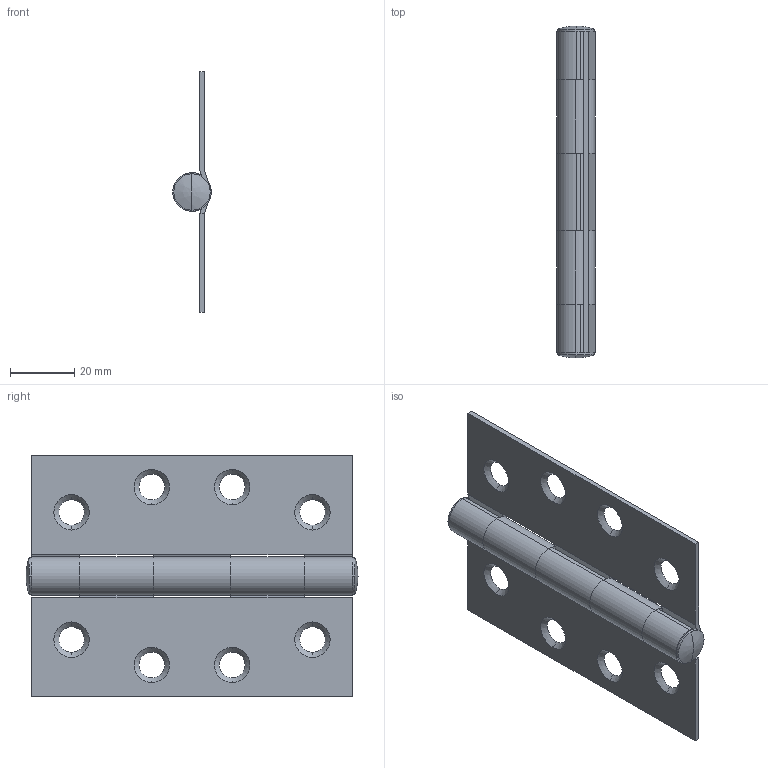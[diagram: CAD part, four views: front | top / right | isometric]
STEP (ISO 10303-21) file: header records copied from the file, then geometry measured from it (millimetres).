
FILE_DESCRIPTION (( 'STEP AP203' ), '1' );
FILE_NAME ('BBF100100BZ_1.STEP', '2020-05-27T05:41:10', ( '' ), ( '' ), 'SwSTEP 2.0', 'SolidWorks 2016', '' );
FILE_SCHEMA (( 'CONFIG_CONTROL_DESIGN' ));
Length unit declared in the file: millimetre
Products named in the file (4): Pin; BBF100100BZ_Cover_2; BBF100100BZ; BBF100100BZ_1
Assembly tree (3 placements, depth 2):
  BBF100100BZ_1
    BBF100100BZ_Cover_2
    BBF100100BZ
    Pin
Bounding box: 12 x 103.34 x 75 mm (x, y, z)
Volume: 17382.2 mm3; surface area: 22134.6 mm2
Topology: 3 solids, 3 shells, 96 faces, 254 edges, 162 vertices
Faces by surface type: plane 40, cylinder 36, cone 16, bspline 4
Entity records: 3444 total; most frequent: CARTESIAN_POINT 566, DIRECTION 550, ORIENTED_EDGE 500, EDGE_CURVE 250, AXIS2_PLACEMENT_3D 206, VERTEX_POINT 162, LINE 138, VECTOR 138
